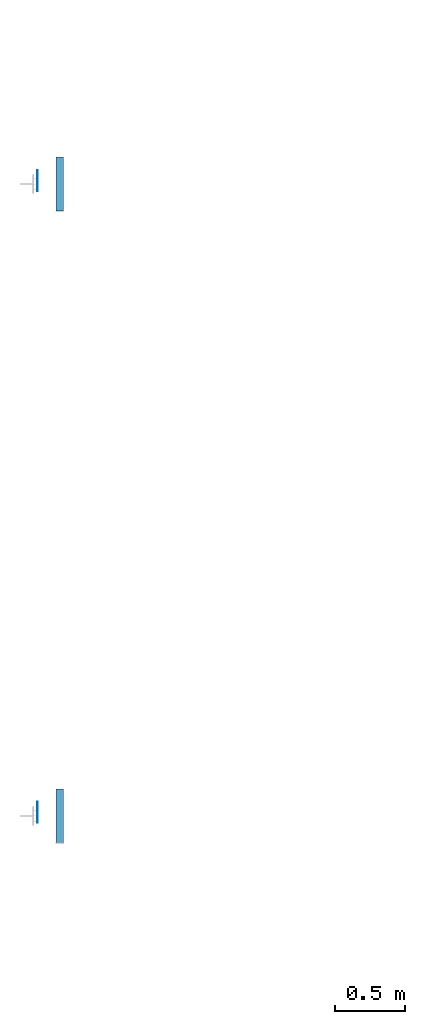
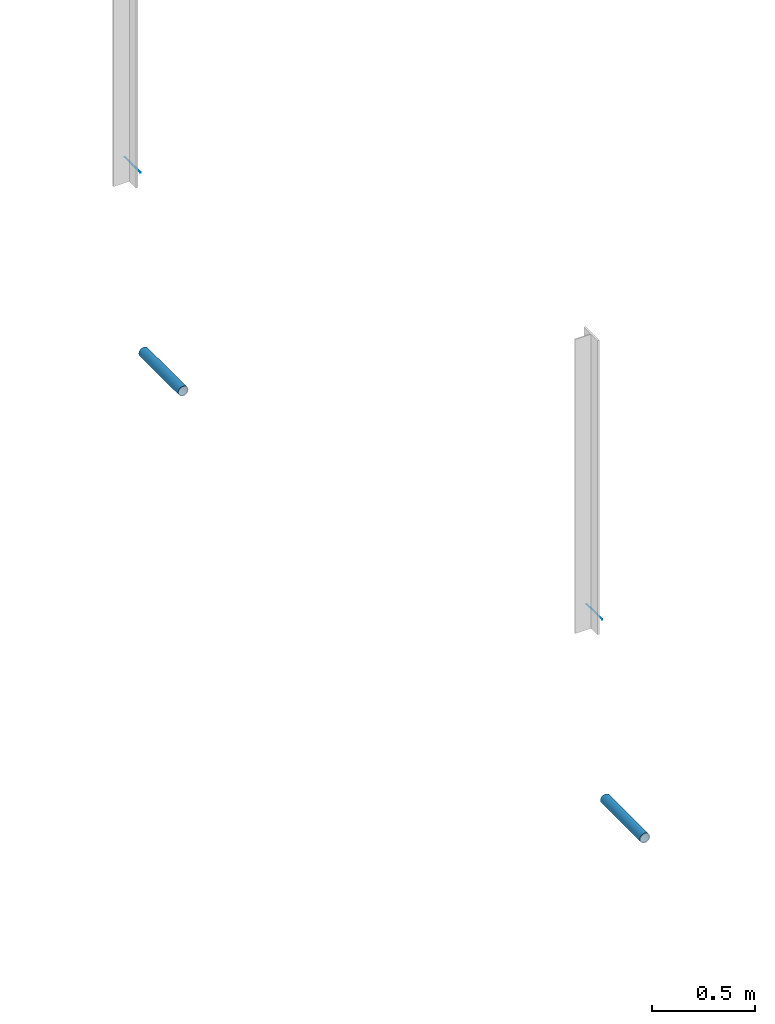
# One storey, part 18 of 186: 4 beams.
"""IFC4X3_ADD2 building model written with IfcOpenShell, lengths in millimetres."""

from ifc_helpers import new_model, si_unit, direction, frame, frame_2d, origin_with_axes, place, context, subcontext, project, spatial, rectangle, hollow_circle, extrude, material, element, save


model = new_model("IFC4X3_ADD2")

# Units and contexts
model_context = context("Model", 3, precision=1e-05, world=origin_with_axes(), true_north=direction((0.0, 1.0)))
body_context = subcontext(model_context, "Body", "Model", "MODEL_VIEW")
ifc_project = project(units=[si_unit("LENGTHUNIT", "METRE", prefix="MILLI"), si_unit("AREAUNIT", "SQUARE_METRE"), si_unit("VOLUMEUNIT", "CUBIC_METRE"), si_unit("PLANEANGLEUNIT", "RADIAN"), si_unit("TIMEUNIT", "SECOND"), si_unit("MASSUNIT", "GRAM")], contexts=[model_context])

# Site, building, storey
site_placement = place(None, origin_with_axes())
site = spatial("IfcSite", under=ifc_project, at=site_placement, Name="Site", CompositionType="ELEMENT")
building_placement = place(site_placement, origin_with_axes())
building = spatial("IfcBuilding", under=site, at=building_placement, Name="IFC Building Story")
storey_placement = place(building_placement, frame((0.0, 0.0, 4370.0), z_axis=(0.0, 0.0, 1.0), x_axis=(1.0, 0.0, 0.0)))
storey = spatial("IfcBuildingStorey", under=building, at=storey_placement, Name="ETAGE 10 (1)", Elevation=4370.0)

# Beams
ifc_material_1 = material(Name="STEEL/Accessory_invisible")
for number, where, z_axis, x_axis, name in (
    (1, (4802.68977737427, 4525.000202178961, 3929.5), (1.0, 0.0, 0.0), (0.0, 0.0, 1.0), "RH14"),
    (2, (4802.68977737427, 9024.99972534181, 3859.5), (1.0, 0.0, 0.0), (0.0, 0.0, 1.0), "RH14"),
):
    element("IfcBeam", number, at=place(storey_placement, frame(where, z_axis=z_axis, x_axis=x_axis)), inside=storey, material=ifc_material_1, Name=name, ObjectType="1*1 6", context=body_context, shape_type="SweptSolid", body=[
        extrude(rectangle(XDim=0.9999999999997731, YDim=150.000000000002, at=frame_2d((0.0, 5.95523630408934e-12), x_axis=(1.0, 0.0))), origin_with_axes(), (0.0, 0.0, 1.0), 0.9999999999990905),
    ])
ifc_material_2 = material(Name="STEEL/Accessory_PVC")
beam_1_placement = place(storey_placement, frame((4961.189777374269, 4308.00020223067, 2660.78), z_axis=(0.0, 1.0, 0.0), x_axis=(1.0, 0.0, 0.0)))
element("IfcBeam", 3, at=beam_1_placement, inside=storey, material=ifc_material_2, Name="PS13", ObjectType="O56*3", context=body_context, shape_type="SweptSolid", body=[
    extrude(hollow_circle(Radius=28.0, WallThickness=3.0, at=frame_2d((0.0, 5.95523630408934e-12), x_axis=(1.0, 0.0))), origin_with_axes(), (0.0, 0.0, 1.0), 384.0),
])
beam_2_placement = place(storey_placement, frame((4961.189777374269, 8807.99972539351, 2590.794), z_axis=(0.0, 1.0, 0.0), x_axis=(1.0, 0.0, 0.0)))
element("IfcBeam", 4, at=beam_2_placement, inside=storey, material=ifc_material_2, Name="PS13", ObjectType="O56*3", context=body_context, shape_type="SweptSolid", body=[
    extrude(hollow_circle(Radius=28.0, WallThickness=3.0, at=frame_2d((0.0, 5.95523630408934e-12), x_axis=(1.0, 0.0))), origin_with_axes(), (0.0, 0.0, 1.0), 383.9999999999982),
])

save(model, "model.ifc")
